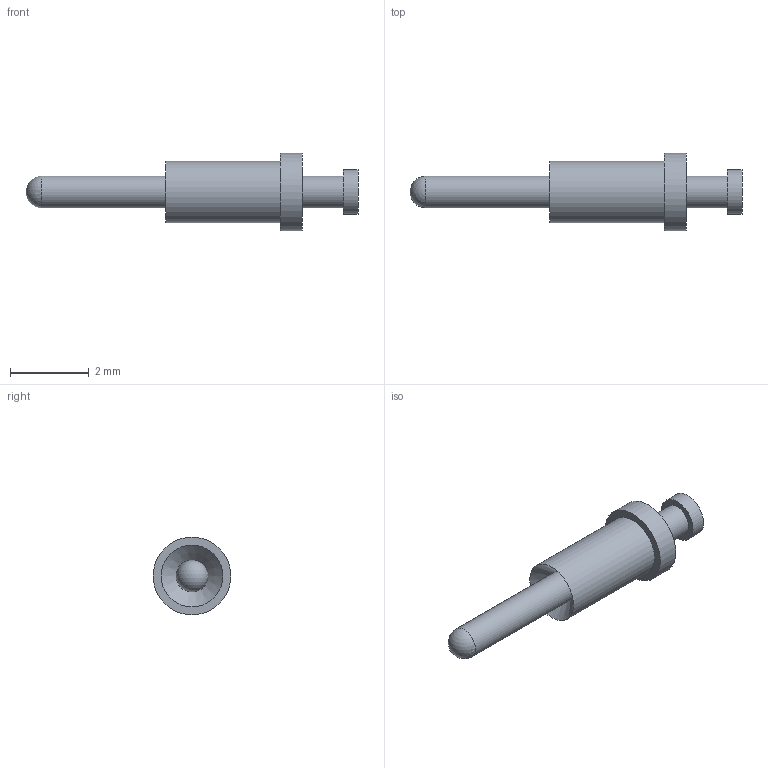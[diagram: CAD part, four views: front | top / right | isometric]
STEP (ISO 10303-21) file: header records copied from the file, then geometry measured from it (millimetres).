
FILE_DESCRIPTION(/* description */ (''),/* implementation_level */ '2;1');
FILE_NAME(/* name */ 'Z:\STEP folder\120-1032-03.ipt.stp',/* time_stamp */ '2016-12-07T10:26:58+00:00',/* author */ ('Paul Karlsons'),/* organization */ (''),/* preprocessor_version */ 'ST-DEVELOPER v15.2',/* originating_system */ 'Autodesk Inventor 2014',/* authorisation */ '');
FILE_SCHEMA (('AUTOMOTIVE_DESIGN { 1 0 10303 214 3 1 1 }'));
Length unit declared in the file: millimetre
Products named in the file (1): 120-1032-03
Bounding box: 8.45 x 1.98 x 1.98 mm (x, y, z)
Volume: 9.9 mm3; surface area: 39.2 mm2
Topology: 1 solids, 1 shells, 11 faces, 20 edges, 12 vertices
Faces by surface type: cylinder 5, plane 4, sphere 1, cone 1
Full cylindrical faces by diameter (mm): 0.812 x2, 1.143 x1, 1.574 x1, 1.98 x1
Entity records: 235 total; most frequent: DIRECTION 44, CARTESIAN_POINT 32, AXIS2_PLACEMENT_3D 22, EDGE_LOOP 20, ORIENTED_EDGE 20, ADVANCED_FACE 11, FACE_BOUND 10, FACE_OUTER_BOUND 10
